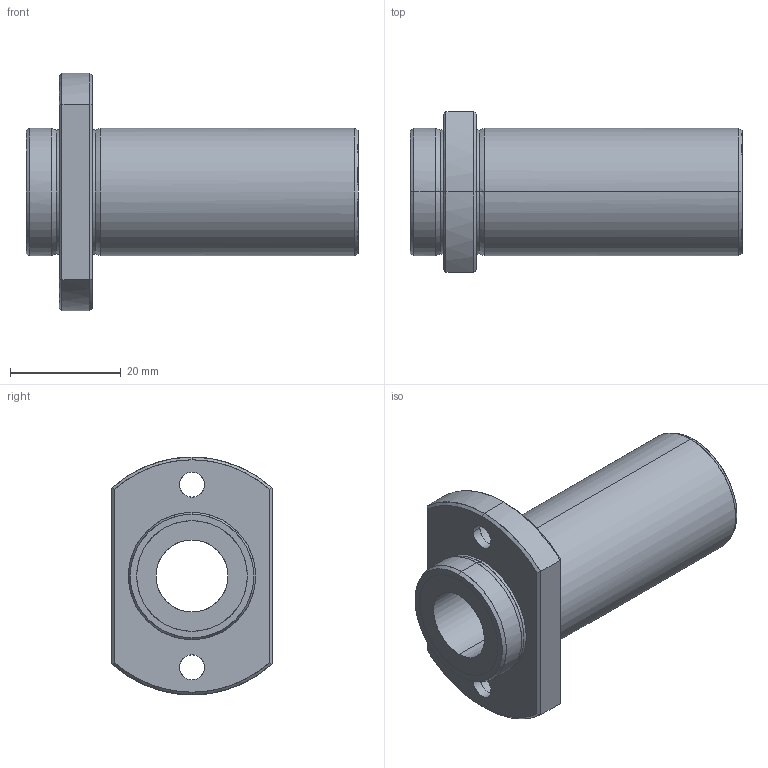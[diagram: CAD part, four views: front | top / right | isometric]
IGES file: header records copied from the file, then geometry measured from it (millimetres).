
Global section: file name: No Iges File Name specified; native system: AutoDesk Inventor R10; preprocessor: AutoDesk Inventor Iges Exporter R10; author: No Author specified; organization: No Organization specified; date: 20101209.173907; units: millimetre
Bounding box: 60 x 29 x 43 mm (x, y, z)
Surface area: 9267.1 mm2 (no closed solid volume)
Topology: 0 solids, 0 shells, 56 faces, 336 edges, 336 vertices
Faces by surface type: bspline 56
